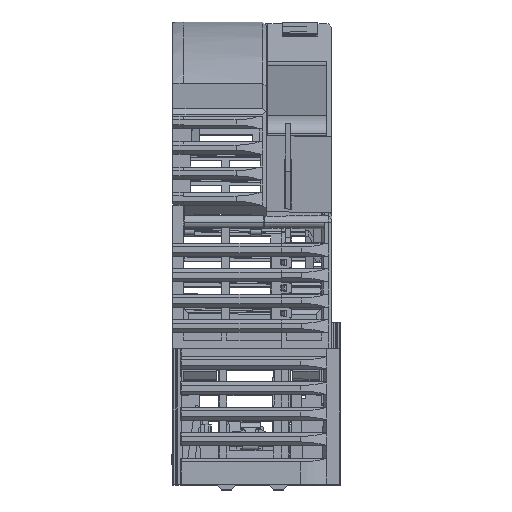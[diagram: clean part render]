
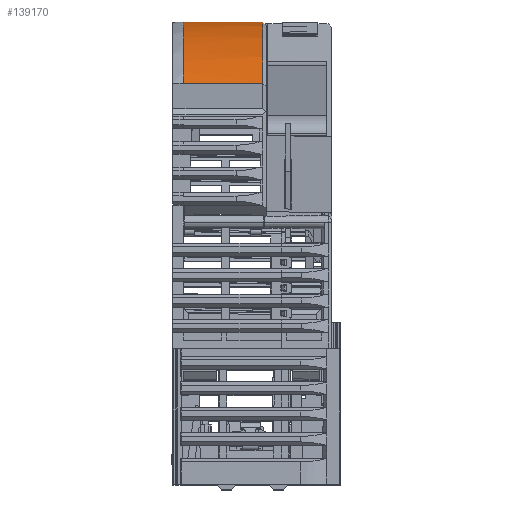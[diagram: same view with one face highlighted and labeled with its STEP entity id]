
A CAD part, top view. The second image highlights one B-rep face of the part: STEP entity #139170.
In plain terms, the highlighted cylindrical face has radius 80 mm (diameter 160 mm), a partial arc.
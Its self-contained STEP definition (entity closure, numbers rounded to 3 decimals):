
#7675=CARTESIAN_POINT('',(-13.625,-20.958,34.911));
#7676=DIRECTION('',(1.,0.,0.));
#7677=DIRECTION('',(0.,0.992,-0.124));
#7678=AXIS2_PLACEMENT_3D('',#7675,#7676,#7677);
#7749=DIRECTION('',(1.,0.,0.));
#7750=VECTOR('',#7749,16.6);
#7751=CARTESIAN_POINT('',(-13.625,58.423,24.981));
#7752=LINE('',#7751,#7750);
#7756=DIRECTION('',(-1.,0.,0.));
#7757=VECTOR('',#7756,0.95);
#7758=CARTESIAN_POINT('',(2.975,58.705,27.586));
#7759=LINE('',#7758,#7757);
#7763=DIRECTION('',(-1.,0.,0.));
#7764=VECTOR('',#7763,15.65);
#7765=CARTESIAN_POINT('',(2.025,46.897,77.286));
#7766=LINE('',#7765,#7764);
#7805=CARTESIAN_POINT('',(2.975,-20.958,34.911));
#7806=DIRECTION('',(-1.,0.,0.));
#7807=DIRECTION('',(0.,0.996,-0.092));
#7808=AXIS2_PLACEMENT_3D('',#7805,#7806,#7807);
#17356=CARTESIAN_POINT('',(2.025,46.897,77.286));
#17361=CARTESIAN_POINT('',(2.025,-20.958,
34.911));
#17362=DIRECTION('',(-1.,0.,0.));
#17363=DIRECTION('',(0.,0.848,0.53));
#17364=AXIS2_PLACEMENT_3D('',#17361,#17362,#17363);
#17369=CARTESIAN_POINT('',(2.025,-20.958,
34.911));
#17370=DIRECTION('',(-1.,0.,0.));
#17371=DIRECTION('',(0.,1.,0.));
#17372=AXIS2_PLACEMENT_3D('',#17369,#17370,#17371);
#17447=CARTESIAN_POINT('',(2.025,58.705,27.586));
#132819=VERTEX_POINT('',#17447);
#132820=CARTESIAN_POINT('',(2.975,58.705,27.586));
#132821=VERTEX_POINT('',#132820);
#132822=VERTEX_POINT('',#17356);
#132823=CARTESIAN_POINT('',(2.025,59.042,
34.911));
#132824=VERTEX_POINT('',#132823);
#133322=CARTESIAN_POINT('',(2.975,58.423,24.981));
#133323=VERTEX_POINT('',#133322);
#134027=CARTESIAN_POINT('',(-13.625,58.423,24.981));
#134028=CARTESIAN_POINT('',(-13.625,46.897,77.286));
#134029=VERTEX_POINT('',#134027);
#134030=VERTEX_POINT('',#134028);
#139150=CARTESIAN_POINT('',(1.725,-20.958,34.911));
#139151=DIRECTION('',(1.,0.,0.));
#139152=DIRECTION('',(0.,0.,-1.));
#139153=AXIS2_PLACEMENT_3D('',#139150,#139151,#139152);
#139154=CYLINDRICAL_SURFACE('',#139153,80.);
#139155=ORIENTED_EDGE('',*,*,#139116,.F.);
#139157=ORIENTED_EDGE('',*,*,#139156,.T.);
#139159=ORIENTED_EDGE('',*,*,#139158,.F.);
#139161=ORIENTED_EDGE('',*,*,#139160,.T.);
#139163=ORIENTED_EDGE('',*,*,#139162,.F.);
#139165=ORIENTED_EDGE('',*,*,#139164,.F.);
#139167=ORIENTED_EDGE('',*,*,#139166,.T.);
#139168=EDGE_LOOP('',(#139155,#139157,#139159,#139161,#139163,#139165,#139167));
#139169=FACE_OUTER_BOUND('',#139168,.F.);
#7679=CIRCLE('',#7678,80.);
#7809=CIRCLE('',#7808,80.);
#17365=CIRCLE('',#17364,80.);
#17373=CIRCLE('',#17372,80.);
#139116=EDGE_CURVE('',#134029,#134030,#7679,.T.);
#139156=EDGE_CURVE('',#134029,#133323,#7752,.T.);
#139158=EDGE_CURVE('',#132821,#133323,#7809,.T.);
#139160=EDGE_CURVE('',#132821,#132819,#7759,.T.);
#139162=EDGE_CURVE('',#132824,#132819,#17373,.T.);
#139164=EDGE_CURVE('',#132822,#132824,#17365,.T.);
#139166=EDGE_CURVE('',#132822,#134030,#7766,.T.);
#139170=ADVANCED_FACE('',(#139169),#139154,.T.);
